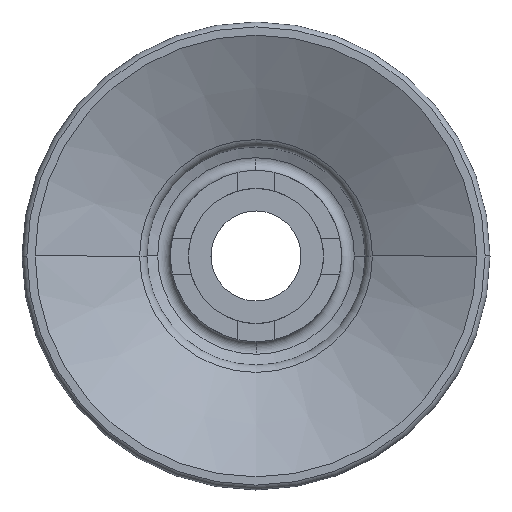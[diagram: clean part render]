
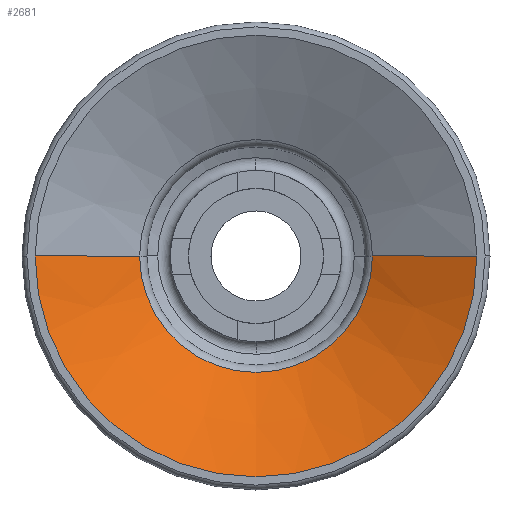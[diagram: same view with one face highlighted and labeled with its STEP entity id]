
A CAD part, front view. The second image highlights one B-rep face of the part: STEP entity #2681.
In plain terms, the highlighted conical face has half-angle 62.925 degrees and reference radius 6.466 mm.
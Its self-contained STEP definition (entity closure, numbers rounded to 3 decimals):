
#23 = DIRECTION ( 'NONE',  ( 0., -1., 0. ) ) ;
#57 = EDGE_CURVE ( 'NONE', #2242, #89, #2650, .T. ) ;
#66 = EDGE_CURVE ( 'NONE', #2242, #1529, #851, .T. ) ;
#89 = VERTEX_POINT ( 'NONE', #899 ) ;
#208 = AXIS2_PLACEMENT_3D ( 'NONE', #450, #23, #933 ) ;
#226 = LINE ( 'NONE', #1117, #1820 ) ;
#245 = DIRECTION ( 'NONE',  ( -0.89, -0.455, 0. ) ) ;
#246 = EDGE_CURVE ( 'NONE', #1529, #1270, #226, .T. ) ;
#256 = DIRECTION ( 'NONE',  ( 0.89, -0.455, 0. ) ) ;
#450 = CARTESIAN_POINT ( 'NONE',  ( 0., -10.551, 0. ) ) ;
#487 = CARTESIAN_POINT ( 'NONE',  ( 0., -13.518, 0. ) ) ;
#851 = CIRCLE ( 'NONE', #208, 6.466 ) ;
#899 = CARTESIAN_POINT ( 'NONE',  ( -12.27, -13.518, 0. ) ) ;
#904 = ORIENTED_EDGE ( 'NONE', *, *, #2155, .F. ) ;
#933 = DIRECTION ( 'NONE',  ( -1., 0., 0. ) ) ;
#1117 = CARTESIAN_POINT ( 'NONE',  ( 6.466, -10.551, 0. ) ) ;
#1270 = VERTEX_POINT ( 'NONE', #1871 ) ;
#1368 = DIRECTION ( 'NONE',  ( 0., 1., 0. ) ) ;
#1377 = FACE_OUTER_BOUND ( 'NONE', #1540, .T. ) ;
#1500 = DIRECTION ( 'NONE',  ( 0., -1., 0. ) ) ;
#1529 = VERTEX_POINT ( 'NONE', #2613 ) ;
#1540 = EDGE_LOOP ( 'NONE', ( #1592, #1841, #904, #1635 ) ) ;
#1571 = CARTESIAN_POINT ( 'NONE',  ( -6.466, -10.551, 0. ) ) ;
#1592 = ORIENTED_EDGE ( 'NONE', *, *, #66, .F. ) ;
#1609 = AXIS2_PLACEMENT_3D ( 'NONE', #487, #1368, #2255 ) ;
#1635 = ORIENTED_EDGE ( 'NONE', *, *, #246, .F. ) ;
#1820 = VECTOR ( 'NONE', #256, 1000. ) ;
#1841 = ORIENTED_EDGE ( 'NONE', *, *, #57, .T. ) ;
#1871 = CARTESIAN_POINT ( 'NONE',  ( 12.27, -13.518, 0. ) ) ;
#1928 = CIRCLE ( 'NONE', #1609, 12.27 ) ;
#2155 = EDGE_CURVE ( 'NONE', #1270, #89, #1928, .T. ) ;
#2191 = CONICAL_SURFACE ( 'NONE', #2565, 6.466, 1.098 ) ;
#2213 = DIRECTION ( 'NONE',  ( 1., 0., 0. ) ) ;
#2242 = VERTEX_POINT ( 'NONE', #2414 ) ;
#2255 = DIRECTION ( 'NONE',  ( -1., 0., 0. ) ) ;
#2341 = VECTOR ( 'NONE', #245, 1000. ) ;
#2414 = CARTESIAN_POINT ( 'NONE',  ( -6.466, -10.551, 0. ) ) ;
#2565 = AXIS2_PLACEMENT_3D ( 'NONE', #2846, #1500, #2213 ) ;
#2613 = CARTESIAN_POINT ( 'NONE',  ( 6.466, -10.551, 0. ) ) ;
#2650 = LINE ( 'NONE', #1571, #2341 ) ;
#2681 = ADVANCED_FACE ( 'NONE', ( #1377 ), #2191, .F. ) ;
#2846 = CARTESIAN_POINT ( 'NONE',  ( 0., -10.551, 0. ) ) ;
